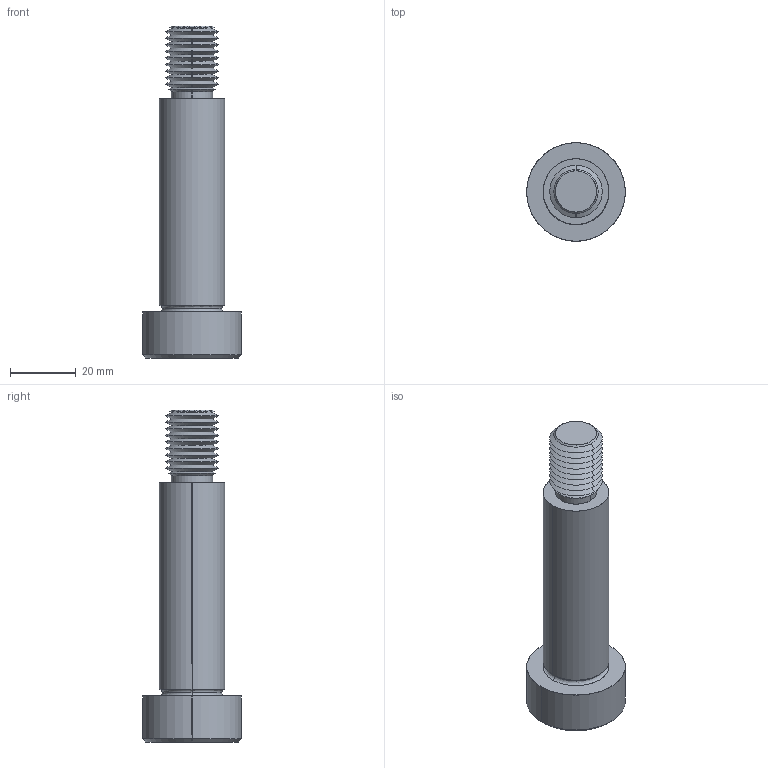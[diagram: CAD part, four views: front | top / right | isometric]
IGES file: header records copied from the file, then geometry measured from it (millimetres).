
Start section: SolidWorks IGES file using analytic representation for surfaces
Global section: file name: C:\Users\IanO\Documents\Temp Folder\GENERAL\SCREW REVISION\P0130_v2\P0130.T5_v2_20220106_IGES\P0130.200-065-T5.igs; native system: SolidWorks 2019; preprocessor: SolidWorks 2019; author: IanO; date: 220106.230141; units: millimetre
Bounding box: 30 x 30 x 101 mm (x, y, z)
Surface area: 9002.1 mm2 (no closed solid volume)
Topology: 0 solids, 0 shells, 80 faces, 692 edges, 690 vertices
Faces by surface type: revolution 60, bspline 20
